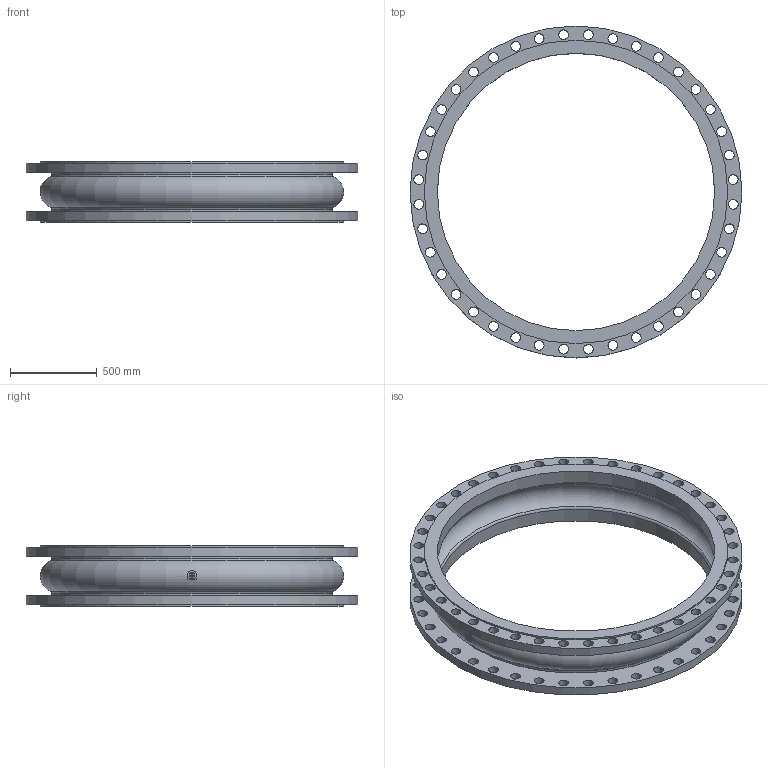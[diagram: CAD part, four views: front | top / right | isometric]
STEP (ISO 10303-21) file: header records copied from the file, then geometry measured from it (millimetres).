
FILE_DESCRIPTION(('STEP AP203'), '1');
FILE_NAME('Êîìïåíñàòîð KMS DN1600 PN10', '', ('UNSPECIFIED'), ('UNSPECIFIED'), 'ASCON STEP Converter 1.6', 'ASCON Math Kernel', '');
FILE_SCHEMA(('CONFIG_CONTROL_DESIGN'));
Length unit declared in the file: millimetre
Bounding box: 1915 x 1915 x 350 mm (x, y, z)
Volume: 101650826.8 mm3; surface area: 8011043.6 mm2
Topology: 1 solids, 1 shells, 117 faces, 316 edges, 208 vertices
Faces by surface type: cylinder 95, plane 13, torus 9
Full cylindrical faces by diameter (mm): 56 x80, 1600 x2, 1620 x2, 1750 x2, 1915 x2
Entity records: 5877 total; most frequent: CARTESIAN_POINT 1872, DIRECTION 622, ORIENTED_EDGE 444, EDGE_LOOP 380, AXIS2_PLACEMENT_3D 304, EDGE_CURVE 222, VERTEX_POINT 208, FACE_BOUND 192
